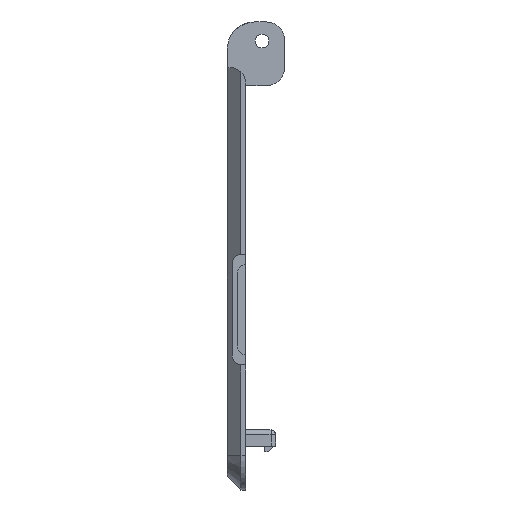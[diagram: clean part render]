
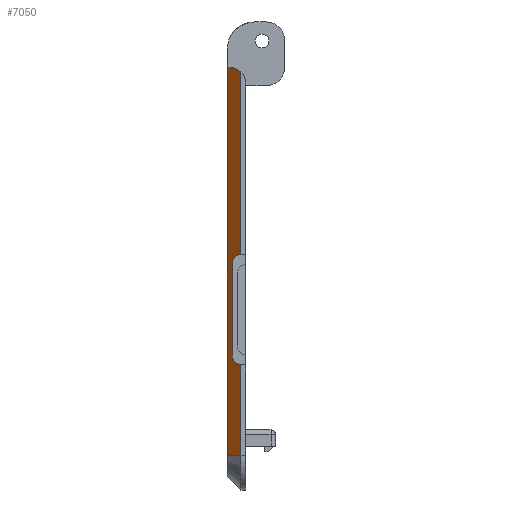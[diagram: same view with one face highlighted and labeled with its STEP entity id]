
A CAD part, left-side view. The second image highlights one B-rep face of the part: STEP entity #7050.
In plain terms, the highlighted planar face has unit normal (-0.707, 0.707, 0).
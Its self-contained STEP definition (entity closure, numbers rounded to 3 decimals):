
#2017=CARTESIAN_POINT('',(-89.2,-14.68,-51.068));
#2018=CARTESIAN_POINT('',(-89.065,-14.545,
-51.061));
#2019=CARTESIAN_POINT('',(-88.831,-14.311,
-50.998));
#2020=CARTESIAN_POINT('',(-88.596,-14.076,
-50.84));
#2021=CARTESIAN_POINT('',(-88.442,-13.922,
-50.667));
#2022=CARTESIAN_POINT('',(-88.346,-13.826,
-50.511));
#2023=CARTESIAN_POINT('',(-88.275,-13.755,
-50.322));
#2024=CARTESIAN_POINT('',(-88.25,-13.73,-50.165));
#2025=CARTESIAN_POINT('',(-88.25,-13.73,-50.069));
#2031=DIRECTION('',(0.,0.,1.));
#2032=VECTOR('',#2031,9.932);
#2033=CARTESIAN_POINT('',(-89.2,-14.68,-61.));
#2034=LINE('',#2033,#2032);
#2051=DIRECTION('',(0.,0.,1.));
#2052=VECTOR('',#2051,20.024);
#2053=CARTESIAN_POINT('',(-89.2,-14.68,-38.92));
#2054=LINE('',#2053,#2052);
#2064=DIRECTION('',(0.,0.,-1.));
#2065=VECTOR('',#2064,10.15);
#2066=CARTESIAN_POINT('',(-88.25,-13.73,-39.919));
#2067=LINE('',#2066,#2065);
#2068=DIRECTION('',(-0.707,-0.707,0.));
#2069=VECTOR('',#2068,2.121);
#2070=CARTESIAN_POINT('',(-87.7,-13.18,-61.));
#2071=LINE('',#2070,#2069);
#2072=CARTESIAN_POINT('',(-88.25,-13.73,-39.919));
#2073=CARTESIAN_POINT('',(-88.25,-13.73,-39.823));
#2074=CARTESIAN_POINT('',(-88.275,-13.755,
-39.666));
#2075=CARTESIAN_POINT('',(-88.346,-13.826,
-39.477));
#2076=CARTESIAN_POINT('',(-88.442,-13.922,
-39.321));
#2077=CARTESIAN_POINT('',(-88.596,-14.076,
-39.148));
#2078=CARTESIAN_POINT('',(-88.831,-14.311,
-38.99));
#2079=CARTESIAN_POINT('',(-89.065,-14.545,
-38.927));
#2080=CARTESIAN_POINT('',(-89.2,-14.68,-38.92));
#2124=DIRECTION('',(0.,0.,1.));
#2125=VECTOR('',#2124,42.6);
#2126=CARTESIAN_POINT('',(-87.7,-13.18,-61.));
#2127=LINE('',#2126,#2125);
#2894=CARTESIAN_POINT('',(-88.,-13.48,-18.4));
#2895=CARTESIAN_POINT('',(-88.219,-13.699,-18.4));
#2896=CARTESIAN_POINT('',(-88.533,-14.013,
-18.461));
#2897=CARTESIAN_POINT('',(-88.925,-14.405,
-18.66));
#2898=CARTESIAN_POINT('',(-89.111,-14.591,
-18.807));
#2899=CARTESIAN_POINT('',(-89.2,-14.68,-18.896));
#2906=DIRECTION('',(-0.707,-0.707,0.));
#2907=VECTOR('',#2906,0.424);
#2908=CARTESIAN_POINT('',(-87.7,-13.18,-18.4));
#2909=LINE('',#2908,#2907);
#3457=CARTESIAN_POINT('',(-87.7,-13.18,-18.4));
#3458=CARTESIAN_POINT('',(-88.,-13.48,-18.4));
#3459=VERTEX_POINT('',#3457);
#3460=VERTEX_POINT('',#3458);
#3461=VERTEX_POINT('',#2899);
#3462=CARTESIAN_POINT('',(-87.7,-13.18,-61.));
#3463=VERTEX_POINT('',#3462);
#3465=CARTESIAN_POINT('',(-89.2,-14.68,-61.));
#3467=VERTEX_POINT('',#3465);
#3592=CARTESIAN_POINT('',(-88.25,-13.73,-50.069));
#3593=VERTEX_POINT('',#3592);
#3598=CARTESIAN_POINT('',(-88.25,-13.73,-39.919));
#3599=VERTEX_POINT('',#3598);
#3602=CARTESIAN_POINT('',(-89.2,-14.68,-51.068));
#3603=VERTEX_POINT('',#3602);
#3604=VERTEX_POINT('',#2080);
#7028=CARTESIAN_POINT('',(-88.45,-13.93,-39.948));
#7029=DIRECTION('',(-0.707,0.707,0.));
#7030=DIRECTION('',(-0.707,-0.707,0.));
#7031=AXIS2_PLACEMENT_3D('',#7028,#7029,#7030);
#7032=PLANE('',#7031);
#7033=ORIENTED_EDGE('',*,*,#7020,.F.);
#7035=ORIENTED_EDGE('',*,*,#7034,.F.);
#7037=ORIENTED_EDGE('',*,*,#7036,.T.);
#7038=ORIENTED_EDGE('',*,*,#6976,.F.);
#7039=ORIENTED_EDGE('',*,*,#7001,.F.);
#7041=ORIENTED_EDGE('',*,*,#7040,.F.);
#7043=ORIENTED_EDGE('',*,*,#7042,.T.);
#7045=ORIENTED_EDGE('',*,*,#7044,.T.);
#7047=ORIENTED_EDGE('',*,*,#7046,.T.);
#7048=EDGE_LOOP('',(#7033,#7035,#7037,#7038,#7039,#7041,#7043,#7045,#7047));
#7049=FACE_OUTER_BOUND('',#7048,.F.);
#2026=B_SPLINE_CURVE_WITH_KNOTS('',3,(#2017,#2018,#2019,#2020,#2021,#2022,#2023,
#2024,#2025),.UNSPECIFIED.,.F.,.F.,(4,1,1,1,1,1,4),(0.,0.25,0.5,0.625,
0.75,0.875,1.),.UNSPECIFIED.);
#2081=B_SPLINE_CURVE_WITH_KNOTS('',3,(#2072,#2073,#2074,#2075,#2076,#2077,#2078,
#2079,#2080),.UNSPECIFIED.,.F.,.F.,(4,1,1,1,1,1,4),(0.,0.125,0.25,0.375,
0.5,0.75,1.),.UNSPECIFIED.);
#2900=B_SPLINE_CURVE_WITH_KNOTS('',3,(#2894,#2895,#2896,#2897,#2898,#2899),
.UNSPECIFIED.,.F.,.F.,(4,1,1,4),(0.,0.5,0.75,1.),.UNSPECIFIED.);
#6976=EDGE_CURVE('',#3603,#3593,#2026,.T.);
#7001=EDGE_CURVE('',#3467,#3603,#2034,.T.);
#7020=EDGE_CURVE('',#3604,#3461,#2054,.T.);
#7034=EDGE_CURVE('',#3599,#3604,#2081,.T.);
#7036=EDGE_CURVE('',#3599,#3593,#2067,.T.);
#7040=EDGE_CURVE('',#3463,#3467,#2071,.T.);
#7042=EDGE_CURVE('',#3463,#3459,#2127,.T.);
#7044=EDGE_CURVE('',#3459,#3460,#2909,.T.);
#7046=EDGE_CURVE('',#3460,#3461,#2900,.T.);
#7050=ADVANCED_FACE('',(#7049),#7032,.T.);
